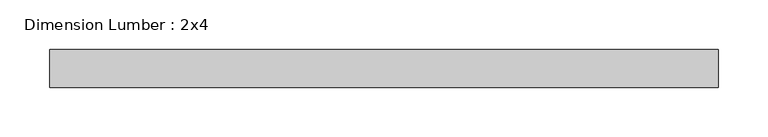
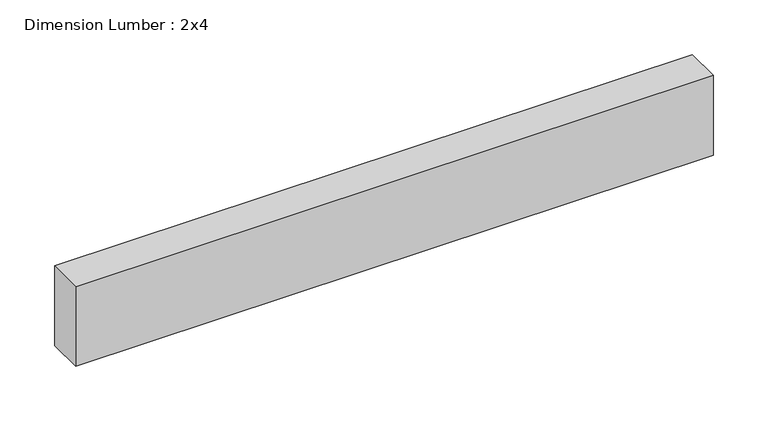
"""IFC4 building model written with IfcOpenShell, lengths in millimetres: beam geometry, Dimension Lumber : 2x4."""

import ifcopenshell
import ifcopenshell.guid

model = None  # the IFC model being written
_history = None  # IfcOwnerHistory: only IFC2X3 demands one
_inside = {}  # id of a spatial element -> (the spatial element, [elements in it])
_under = {}  # id of a project, library or spatial element -> (it, [spatial elements below it])
_declared = {}  # id of a project -> (the project, [libraries it declares])
_typed = {}  # id of a type object -> (the type object, [elements of that type])
_made_of = {}  # id of a material, layer set ... -> (it, [elements and type objects made of it])


def new_model(schema):
    """Start an empty IFC model of exactly this schema.

    Asked for "IFC4X3", IfcOpenShell would pick the latest addendum, in which some entities
    have other attributes; the version numbers below select the first issue.
    IFC2X3 requires an IfcOwnerHistory on every rooted entity: one is made here for all.
    """
    global model, _history
    if schema == "IFC4X3":
        model = ifcopenshell.file(schema_version=(4, 3, 0, 0))
    else:
        model = ifcopenshell.file(schema=schema)
    _inside.clear()
    _under.clear()
    _declared.clear()
    _typed.clear()
    _made_of.clear()
    _history = None
    if model.schema == "IFC2X3":
        org = make("IfcOrganization", Name="unknown")
        user = make(
            "IfcPersonAndOrganization",
            ThePerson=make("IfcPerson", FamilyName="unknown"),
            TheOrganization=org,
        )
        app = make(
            "IfcApplication",
            ApplicationDeveloper=org,
            Version="unknown",
            ApplicationFullName="unknown",
            ApplicationIdentifier="unknown",
        )
        _history = make(
            "IfcOwnerHistory",
            OwningUser=user,
            OwningApplication=app,
            ChangeAction="ADDED",
            CreationDate=0,
        )
    return model


def make(cls, **values):
    """One entity of the class cls with the attributes given. An attribute that is None is left unset."""
    return model.create_entity(
        cls, **{name: value for name, value in values.items() if value is not None}
    )


def rooted(cls, **values):
    """An entity with a GlobalId (a new one), such as an element, a storey or a relation."""
    return make(cls, GlobalId=ifcopenshell.guid.new(), OwnerHistory=_history, **values)


def si_unit(unit_type, name, prefix=None):
    """IfcSIUnit, for example si_unit("LENGTHUNIT", "METRE", prefix="MILLI")."""
    return make("IfcSIUnit", UnitType=unit_type, Prefix=prefix, Name=name)


def assignment(units):
    """IfcUnitAssignment: the units of a project."""
    return None if units is None else make("IfcUnitAssignment", Units=units)


def point(xyz):
    """IfcCartesianPoint."""
    return None if xyz is None else make("IfcCartesianPoint", Coordinates=xyz)


def direction(xyz):
    """IfcDirection."""
    return None if xyz is None else make("IfcDirection", DirectionRatios=xyz)


def frame(location, z_axis=None, x_axis=None):
    """IfcAxis2Placement3D, a coordinate frame: its origin and axes. An axis left out is left unset."""
    return make(
        "IfcAxis2Placement3D",
        Location=point(location),
        Axis=direction(z_axis),
        RefDirection=direction(x_axis),
    )


def origin():
    """The frame at (0, 0, 0) with its axes left unset."""
    return frame((0.0, 0.0, 0.0))


def place(relative_to, where):
    """IfcLocalPlacement: puts the frame where relative to a parent placement (None: the world)."""
    return make(
        "IfcLocalPlacement", PlacementRelTo=relative_to, RelativePlacement=where
    )


def context(
    kind, dimensions, precision=None, world=None, true_north=None, identifier=None
):
    """IfcGeometricRepresentationContext, for example the 3D "Model" context."""
    return make(
        "IfcGeometricRepresentationContext",
        ContextIdentifier=identifier,
        ContextType=kind,
        CoordinateSpaceDimension=dimensions,
        Precision=precision,
        WorldCoordinateSystem=world,
        TrueNorth=true_north,
    )


def project(units=None, contexts=None):
    """IfcProject with its units and contexts."""
    return rooted(
        "IfcProject",
        Name="project",
        RepresentationContexts=contexts,
        UnitsInContext=assignment(units),
    )


def spatial(cls, under=None, at=None, **own):
    """A site, building, storey or space (cls), placed at a placement, below another one or the project."""
    s = rooted(cls, ObjectPlacement=at, **own)
    if under is not None:
        _under.setdefault(under.id(), (under, []))[1].append(s)
    return s


def polyline(points):
    """IfcPolyline through the points."""
    return make("IfcPolyline", Points=[point(p) for p in points])


def outline(outer, holes=None, kind="AREA"):
    """IfcArbitraryClosedProfileDef: a profile drawn as a closed curve; with holes, ...WithVoids."""
    if holes is None:
        return make("IfcArbitraryClosedProfileDef", ProfileType=kind, OuterCurve=outer)
    return make(
        "IfcArbitraryProfileDefWithVoids",
        ProfileType=kind,
        OuterCurve=outer,
        InnerCurves=holes,
    )


def extrude(swept, where, along, depth):
    """IfcExtrudedAreaSolid: the profile swept, set in the frame where, extruded along a direction by depth."""
    return make(
        "IfcExtrudedAreaSolid",
        SweptArea=swept,
        Position=where,
        ExtrudedDirection=direction(along),
        Depth=depth,
    )


def shape(context_of_items, identifier, shape_type, items):
    """IfcShapeRepresentation: the items that make up one representation, for example the "Body"."""
    return make(
        "IfcShapeRepresentation",
        ContextOfItems=context_of_items,
        RepresentationIdentifier=identifier,
        RepresentationType=shape_type,
        Items=items,
    )


def source(mapping_origin, context_of_items, identifier, shape_type, items):
    """IfcRepresentationMap: a shape defined once, which mapped items show again and again."""
    return make(
        "IfcRepresentationMap",
        MappingOrigin=mapping_origin,
        MappedRepresentation=shape(context_of_items, identifier, shape_type, items),
    )


def transform(
    local_origin,
    x_axis=None,
    y_axis=None,
    z_axis=None,
    scale=None,
    scale2=None,
    scale3=None,
    uniform=True,
):
    """IfcCartesianTransformationOperator3D, or its non-uniform kind. x_axis, y_axis, z_axis: its Axis1, 2, 3."""
    if uniform:
        return make(
            "IfcCartesianTransformationOperator3D",
            Axis1=direction(x_axis),
            Axis2=direction(y_axis),
            LocalOrigin=point(local_origin),
            Scale=scale,
            Axis3=direction(z_axis),
        )
    return make(
        "IfcCartesianTransformationOperator3DnonUniform",
        Axis1=direction(x_axis),
        Axis2=direction(y_axis),
        LocalOrigin=point(local_origin),
        Scale=scale,
        Axis3=direction(z_axis),
        Scale2=scale2,
        Scale3=scale3,
    )


def mapped(mapping_source, mapping_target):
    """IfcMappedItem: shows the shape of a source again, moved by a transform."""
    return make(
        "IfcMappedItem", MappingSource=mapping_source, MappingTarget=mapping_target
    )


def made_of(thing, what):
    """Note that an element or type object is made of a material, layer set ...; save() writes the relation."""
    if what is not None:
        _made_of.setdefault(what.id(), (what, []))[1].append(thing)
    return thing


def element(
    cls,
    number,
    at=None,
    inside=None,
    cuts=None,
    type_object=None,
    material=None,
    context=None,
    identifier="Body",
    shape_type=None,
    held_by="IfcProductDefinitionShape",
    body=None,
    shapes=None,
    **own,
):
    """One element of the class cls, such as IfcWall. Its Tag is "e" and its number.

    at: its placement. inside: the storey or other place that contains it. cuts: it is an
    opening in that element (IfcRelVoidsElement). A single representation is given by context,
    identifier, shape_type and body (its items); several are given by shapes. held_by: the class
    of the entity that holds the representations. save() writes the other relations.
    """
    e = rooted(cls, Tag="e%d" % number, ObjectPlacement=at, **own)
    if body is not None:
        shapes = [shape(context, identifier, shape_type, body)]
    if shapes is not None:
        e.Representation = make(held_by, Representations=shapes)
    if inside is not None:
        _inside.setdefault(inside.id(), (inside, []))[1].append(e)
    if cuts is not None:
        rooted(
            "IfcRelVoidsElement", RelatingBuildingElement=cuts, RelatedOpeningElement=e
        )
    if type_object is not None:
        _typed.setdefault(type_object.id(), (type_object, []))[1].append(e)
    return made_of(e, material)


def aggregate(whole, parts):
    """IfcRelAggregates: a whole, such as a stair, and the parts it consists of."""
    return rooted("IfcRelAggregates", RelatingObject=whole, RelatedObjects=parts)


def save(model, path):
    """Write the relations noted so far, then the file.

    IfcRelAggregates (storeys below a building ...), IfcRelContainedInSpatialStructure (elements
    in a storey), IfcRelDefinesByType, IfcRelAssociatesMaterial and IfcRelDeclares: one each for
    every whole, place, type object, material and project.
    """
    for whole, parts in _under.values():
        aggregate(whole, parts)
    for where, things in _inside.values():
        rooted(
            "IfcRelContainedInSpatialStructure",
            RelatedElements=things,
            RelatingStructure=where,
        )
    for kind, things in _typed.values():
        rooted("IfcRelDefinesByType", RelatedObjects=things, RelatingType=kind)
    for what, things in _made_of.values():
        rooted("IfcRelAssociatesMaterial", RelatedObjects=things, RelatingMaterial=what)
    for by, libraries in _declared.values():
        rooted("IfcRelDeclares", RelatingContext=by, RelatedDefinitions=libraries)
    model.write(path)


def dimension_lumber_2x4_1e4f71e7(model_context):
    return source(origin(), model_context, "Body", "SweptSolid", [
        extrude(outline(polyline([(336.55, 19.05), (336.55, -19.05), (-336.55, -19.05), (-336.55, 19.05), (336.55, 19.05)])), frame((0.0, 0.0, -44.45), z_axis=(0.0, 0.0, 1.0), x_axis=(1.0, 0.0, 0.0)), (0.0, 0.0, 1.0), 88.9),
    ])


if __name__ == "__main__":
    model = new_model("IFC4")
    model_context = context("Model", 3, world=origin())
    ifc_project = project(units=[si_unit("LENGTHUNIT", "METRE", prefix="MILLI")], contexts=[model_context])
    site = spatial("IfcSite", under=ifc_project)
    building = spatial("IfcBuilding", under=site)
    placement = place(None, origin())
    dimension_lumber_2x4_shape = dimension_lumber_2x4_1e4f71e7(model_context)
    element("IfcBeam", 1, ObjectType="Dimension Lumber : 2x4", at=placement, inside=building, context=model_context, shape_type="MappedRepresentation", body=[
        mapped(dimension_lumber_2x4_shape, transform((0.0, 0.0, 0.0), x_axis=(1.0, 0.0, 0.0), y_axis=(0.0, 1.0, 0.0), z_axis=(0.0, 0.0, 1.0))),
    ])
    save(model, "model.ifc")
